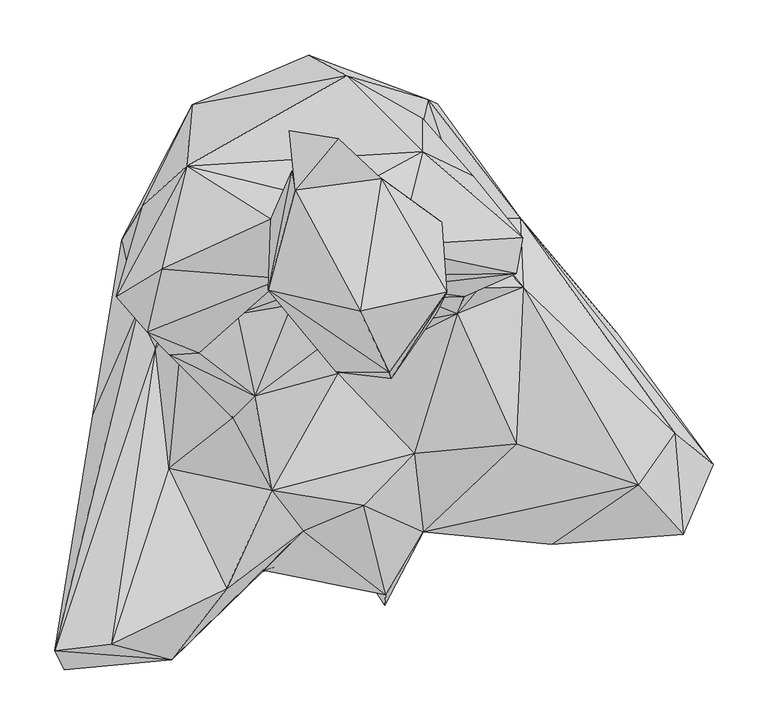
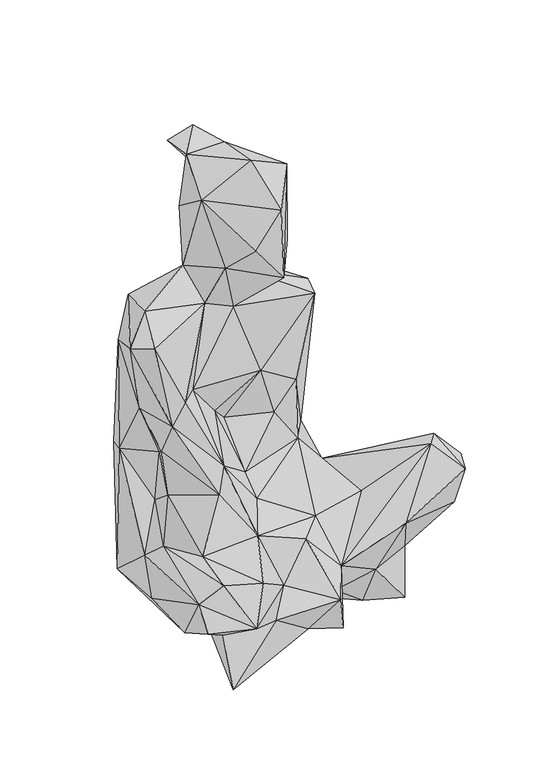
"""IFC4 building model written with IfcOpenShell, lengths in millimetres: geographic element geometry, Enscape AssetDefinition - Asya Sitting : Enscape AssetDefinition - Asya Sitting."""

from ifc_helpers import new_model, si_unit, origin, place, context, project, spatial, faceted_brep, source, transform, mapped, element, save


def geographic_element_e2de325b(model_context):
    return source(origin(), model_context, "Body", "Brep", [
        faceted_brep([(-228.1178534, -115.4430807, 115.0953025), (-247.0952719, -226.2178361, 185.5318695), (-255.6989789, -208.8142037, 238.08451), (-149.0532756, -216.851294, 157.0326537), (-180.2465022, 100.3485098, 124.8558536), (-221.2727964, 5.6974264, 109.0178043), (-164.4781381, 67.0380816, 157.408312), (-204.2127103, -203.0358464, 255.5554211), (-194.8976219, 165.9597158, 62.8164411), (-154.9407393, 229.6441644, 254.3710768), (-135.9106153, 144.2123204, 194.8240548), (-152.1583498, -42.6565036, 198.7766325), (-138.9591694, 96.7040956, 233.7809652), (-98.9202261, -152.2811055, 192.7092373), (-58.0441467, -62.4254011, 220.097959), (-93.8065425, 3.4385361, 275.1760781), (-140.4068768, 114.8021445, 312.4493361), (-118.2688922, 160.487473, 276.2053907), (-155.6151658, 161.4255756, 376.8721521), (-150.9535313, 60.9803125, 398.7899125), (-73.5596791, 23.2985392, 314.6804571), (-171.4574099, 81.9649324, 549.2651463), (-199.9330521, 114.0208244, 541.292727), (-124.7177124, 62.6899749, 436.3648593), (-175.7885367, 197.1342266, 500.6569624), (-135.6298178, 233.0859601, 557.3121309), (-158.1441313, 139.0419602, 587.8736973), (-48.1958762, 130.3798854, 570.8192587), (-89.6518752, 98.2219949, 428.9002419), (7.5478628, 132.6367855, 543.130219), (-26.8365778, 99.8793021, 651.9308686), (-59.0291955, 184.5141649, 618.3602214), (-40.0601737, 228.5723537, 705.8612108), (-61.493285, 119.7960004, 789.7950411), (-4.5831869, 200.7485479, 612.7660871), (0.6233867, 45.1711118, 710.0080252), (50.6903119, 39.5067185, 642.5284743), (49.0838699, 45.009423, 776.4498591), (-36.8204676, 211.0076547, 818.834722), (22.4725977, 101.0123268, 852.6704907), (24.0716524, 234.7716093, 733.2645059), (2.4606818, 258.0830157, 836.4632726), (-42.2877446, 265.1390731, 816.36554), (41.4819196, 221.5133905, 810.3944063), (101.2395993, 117.9636717, 808.1845641), (92.1869874, 99.3629694, 670.5007553), (96.8314335, 181.9019467, 756.4220428), (56.991607, 157.1679711, 641.3837075), (44.946909, 159.9971801, 588.9189243), (79.3625265, 246.2383211, 550.5029559), (10.1096509, 315.6175017, 335.0778818), (79.3622434, 276.4708996, 435.3370667), (125.0298172, 224.2710888, 460.8238637), (170.5595404, 167.9835171, 521.6671228), (-130.7130158, 289.3165052, 223.3331501), (-140.227899, 245.3131378, 29.2213), (-24.6263221, 334.4198763, 197.2341835), (-140.9800798, 169.2144871, -5.552853), (-42.4795859, 232.5466573, -1.0384992), (44.47506, 294.2602038, 26.1961482), (-140.5453384, 79.0670365, 1.3085485), (27.378412, 12.4761891, 26.6655721), (97.5766033, 208.5326016, -11.1739496), (92.6588699, 290.2354002, 79.6707273), (162.4112725, 193.2418942, 29.8411865), (143.3332413, 91.5530324, 37.416961), (255.6523979, 81.9019377, 147.5348622), (168.0769771, 185.7940853, 126.4950931), (208.4972709, -13.8965491, 60.7564934), (84.4259188, 293.5821116, 202.3225576), (72.240755, 241.9484407, 257.4008405), (121.4752868, 184.9973798, 172.1865237), (98.8190249, 196.9569921, 278.7998617), (171.1225808, 122.6726025, 184.7105175), (130.7664812, 121.8078658, 276.1074901), (147.9022652, 174.2615253, 352.1650136), (164.8032516, 135.2116913, 513.1888986), (117.3570156, 114.3359318, 368.5058057), (111.0818535, 98.4897688, 262.0122135), (54.3854274, 122.5205213, 403.9936662), (75.2337202, 112.8732339, 318.2246089), (-34.8174796, 119.5798516, 354.5095921), (-1.7139714, 147.4907696, 313.0274117), (-1.9866175, 76.8394396, 245.5371171), (2.0858091, 44.1756397, 210.0466192), (71.8623772, -28.7360754, 194.6007609), (-29.5174867, -99.5463803, 132.3124915), (25.6070439, -76.1165246, 193.0406988), (80.0331309, -100.3913358, 133.3784163), (164.4888371, -20.027047, 207.0279717), (275.5853832, -57.7865653, 286.3444388), (309.109658, -10.1146325, 267.6184177), (197.0948577, -111.7395163, 185.7026219), (316.5757656, -102.6783139, 248.3734936), (343.9858556, -39.055679, 231.9979668), (247.0832169, 38.3576937, 124.9279678), (299.2849946, -95.3944921, 184.0711534), (152.28571, -89.2635211, 94.7876051), (213.490352, -79.2591274, 114.8492172), (197.8589594, -106.3360274, 32.2725028), (75.8482292, -87.7293497, 77.5139853), (152.4447948, -45.456104, 5.5569164), (151.5974849, 1.9596191, 12.9099581), (44.7771624, -167.4721241, 61.6972819), (9.791702, -113.1789982, 38.6309475), (45.7318835, -157.9524726, 112.1842712), (-65.2498603, -135.5519444, 95.9310308), (-166.5095538, -135.0218952, 100.4557163), (-165.7227427, -167.3099846, 9.6495813), (-149.179697, -60.7230775, 60.809508), (-133.8289082, -101.426892, -2.3407056), (-81.348516, -0.7258175, 20.2506594)], [[[0, 1, 2]], [[0, 3, 1]], [[3, 2, 1]], [[4, 5, 2]], [[4, 2, 6]], [[7, 2, 3]], [[2, 5, 0]], [[6, 2, 7]], [[8, 5, 4]], [[8, 0, 5]], [[9, 8, 4]], [[10, 4, 6]], [[9, 4, 10]], [[11, 6, 7]], [[10, 6, 12]], [[12, 6, 11]], [[13, 7, 3]], [[13, 11, 7]], [[14, 11, 13]], [[14, 15, 11]], [[15, 12, 11]], [[16, 12, 15]], [[17, 10, 12]], [[16, 17, 12]], [[17, 9, 10]], [[17, 16, 18]], [[9, 17, 18]], [[18, 16, 19]], [[16, 15, 19]], [[19, 15, 20]], [[20, 15, 14]], [[21, 22, 19]], [[22, 18, 19]], [[23, 21, 19]], [[23, 19, 20]], [[24, 9, 18]], [[22, 24, 18]], [[25, 24, 22]], [[25, 22, 26]], [[26, 22, 21]], [[27, 21, 23]], [[27, 26, 21]], [[28, 23, 20]], [[27, 23, 28]], [[27, 29, 30]], [[27, 28, 29]], [[31, 26, 27]], [[31, 27, 30]], [[25, 26, 31]], [[32, 31, 33]], [[34, 25, 31]], [[33, 31, 30]], [[32, 34, 31]], [[30, 35, 33]], [[36, 30, 29]], [[30, 36, 35]], [[37, 35, 36]], [[37, 33, 35]], [[38, 32, 33]], [[38, 33, 39]], [[37, 39, 33]], [[38, 40, 32]], [[32, 40, 34]], [[41, 42, 38]], [[38, 39, 43]], [[42, 40, 38]], [[41, 38, 43]], [[44, 39, 37]], [[44, 43, 39]], [[44, 37, 36]], [[44, 36, 45]], [[45, 46, 44]], [[46, 43, 44]], [[41, 43, 40]], [[43, 46, 40]], [[42, 41, 40]], [[40, 47, 34]], [[40, 46, 47]], [[47, 46, 45]], [[48, 45, 36]], [[47, 45, 48]], [[49, 47, 48]], [[34, 47, 49]], [[34, 49, 25]], [[49, 50, 25]], [[51, 49, 52]], [[49, 53, 52]], [[50, 49, 51]], [[53, 49, 48]], [[54, 24, 25]], [[25, 50, 54]], [[54, 9, 24]], [[54, 55, 8]], [[50, 56, 54]], [[9, 54, 8]], [[54, 56, 55]], [[55, 57, 8]], [[58, 57, 55]], [[59, 58, 55]], [[56, 59, 55]], [[8, 57, 0]], [[0, 57, 60]], [[57, 58, 60]], [[60, 58, 61]], [[59, 62, 58]], [[61, 58, 62]], [[56, 63, 59]], [[59, 64, 62]], [[63, 64, 59]], [[61, 62, 65]], [[64, 65, 62]], [[66, 64, 67]], [[63, 67, 64]], [[65, 64, 68]], [[64, 66, 68]], [[56, 69, 63]], [[63, 69, 67]], [[69, 50, 70]], [[50, 69, 56]], [[67, 69, 71]], [[71, 69, 70]], [[50, 51, 70]], [[70, 72, 71]], [[70, 52, 72]], [[52, 70, 51]], [[71, 72, 73]], [[71, 73, 67]], [[73, 72, 74]], [[75, 74, 72]], [[52, 75, 72]], [[52, 53, 75]], [[53, 76, 75]], [[75, 76, 74]], [[76, 77, 74]], [[74, 77, 78]], [[74, 78, 73]], [[29, 79, 76]], [[48, 29, 76]], [[53, 48, 76]], [[76, 79, 77]], [[77, 80, 78]], [[77, 79, 80]], [[79, 81, 82]], [[79, 28, 81]], [[80, 79, 82]], [[29, 28, 79]], [[48, 36, 29]], [[28, 20, 81]], [[81, 20, 83]], [[82, 81, 83]], [[80, 82, 83]], [[80, 83, 78]], [[78, 83, 84]], [[83, 20, 84]], [[84, 20, 14]], [[84, 14, 85]], [[78, 84, 85]], [[14, 13, 86]], [[14, 86, 87]], [[85, 14, 87]], [[85, 87, 88]], [[89, 85, 88]], [[78, 85, 89]], [[73, 78, 89]], [[90, 89, 88]], [[73, 89, 90]], [[91, 67, 73]], [[91, 73, 90]], [[90, 88, 92]], [[90, 92, 93]], [[91, 90, 93]], [[67, 91, 94]], [[94, 91, 93]], [[94, 66, 67]], [[95, 94, 96]], [[66, 94, 95]], [[96, 94, 93]], [[93, 92, 96]], [[92, 88, 97]], [[98, 92, 97]], [[96, 92, 98]], [[98, 95, 96]], [[68, 95, 98]], [[68, 66, 95]], [[98, 97, 99]], [[68, 98, 99]], [[97, 100, 101]], [[97, 88, 100]], [[101, 99, 97]], [[102, 99, 101]], [[102, 68, 99]], [[102, 65, 68]], [[102, 101, 61]], [[61, 65, 102]], [[61, 101, 100]], [[100, 103, 104]], [[100, 88, 103]], [[61, 100, 104]], [[103, 88, 105]], [[88, 87, 105]], [[105, 104, 103]], [[87, 86, 105]], [[86, 106, 105]], [[106, 104, 105]], [[86, 3, 106]], [[13, 3, 86]], [[106, 107, 108]], [[106, 3, 107]], [[104, 106, 108]], [[107, 3, 0]], [[0, 109, 107]], [[107, 109, 108]], [[109, 110, 108]], [[110, 104, 108]], [[60, 111, 109]], [[109, 111, 110]], [[0, 60, 109]], [[111, 104, 110]], [[61, 104, 111]], [[60, 61, 111]]]),
    ])


if __name__ == "__main__":
    model = new_model("IFC4")
    model_context = context("Model", 3, world=origin())
    ifc_project = project(units=[si_unit("LENGTHUNIT", "METRE", prefix="MILLI")], contexts=[model_context])
    site = spatial("IfcSite", under=ifc_project)
    building = spatial("IfcBuilding", under=site)
    placement = place(None, origin())
    geographic_element_shape = geographic_element_e2de325b(model_context)
    element("IfcGeographicElement", 1, ObjectType="Enscape AssetDefinition - Asya Sitting : Enscape AssetDefinition - Asya Sitting", at=placement, inside=building, context=model_context, shape_type="MappedRepresentation", body=[
        mapped(geographic_element_shape, transform((0.0, 0.0, 0.0), x_axis=(1.0, 0.0, 0.0), y_axis=(0.0, 1.0, 0.0), z_axis=(0.0, 0.0, 1.0))),
    ])
    save(model, "model.ifc")
